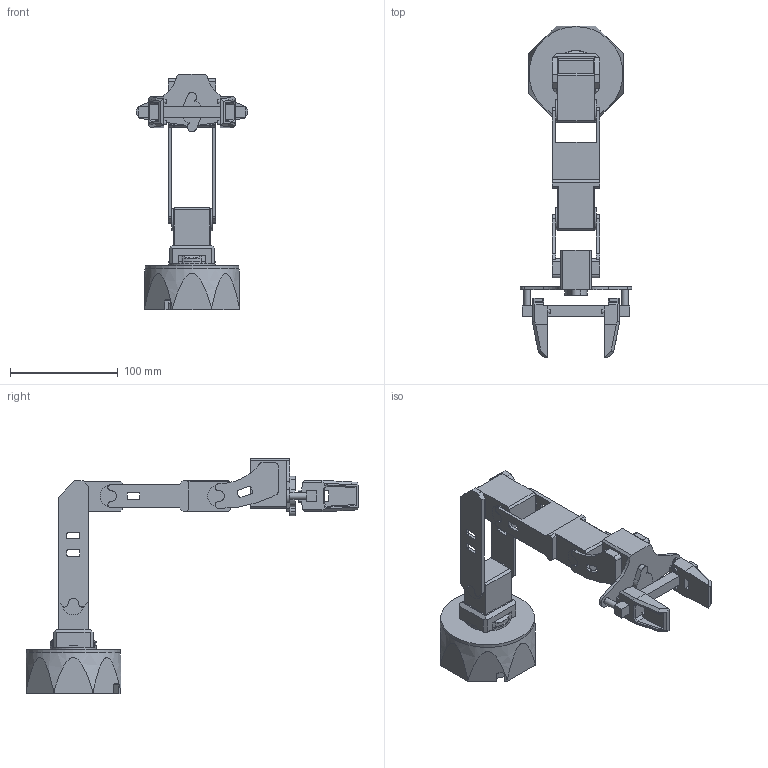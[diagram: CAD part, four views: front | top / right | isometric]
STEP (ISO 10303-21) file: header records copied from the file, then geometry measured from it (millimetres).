
FILE_DESCRIPTION(/* description */ (''),/* implementation_level */ '2;1');
FILE_NAME(/* name */ 'C:/Users/TR1/Desktop/New folder/PX100 Mobile/PXA-100-MOBILE.step',/* time_stamp */ '2020-07-14T13:33:49-05:00',/* author */ (''),/* organization */ (''),/* preprocessor_version */ 'ST-DEVELOPER v18.1',/* originating_system */ 'Autodesk Translation Framework v9.3.0.1241',/* authorisation */ '');
FILE_SCHEMA (('AUTOMOTIVE_DESIGN { 1 0 10303 214 3 1 1 }'));
Length unit declared in the file: millimetre
Products named in the file (8): 1 - PXA-100-MOBILE; SIMPLIFIED - PX-100-Mobile_Base v2; PX-100 Shoulder v3; SRG Carriage With Finger v3; Fore - 1 - PX-100 v2; PX100 SRG v3; SRG Carriage With Finger v3 (1); SIMPLIFIED - PXA-100-UA v4
Assembly tree (7 placements, depth 2):
  1 - PXA-100-MOBILE
    SIMPLIFIED - PX-100-Mobile_Base v2
    PX-100 Shoulder v3
    SRG Carriage With Finger v3
    Fore - 1 - PX-100 v2
    PX100 SRG v3
    SRG Carriage With Finger v3 (1)
    SIMPLIFIED - PXA-100-UA v4
Bounding box: 103.48 x 308.15 x 218.82 mm (x, y, z)
Volume: 445765 mm3; surface area: 133697.2 mm2
Topology: 9 solids, 11 shells, 516 faces, 1400 edges, 922 vertices
Faces by surface type: plane 342, cylinder 165, cone 8, bspline 1
Full cylindrical faces by diameter (mm): 3.8 x4, 4.9 x2, 6.3 x2, 20.5 x8, 22.2 x1, 22.276 x1, 23.5 x1, 42.862 x1, 80 x1, 81 x1, 87 x1
Entity records: 16726 total; most frequent: CARTESIAN_POINT 3051, DIRECTION 2809, ORIENTED_EDGE 2800, EDGE_CURVE 1400, LINE 1017, VECTOR 1017, VERTEX_POINT 922, AXIS2_PLACEMENT_3D 896
